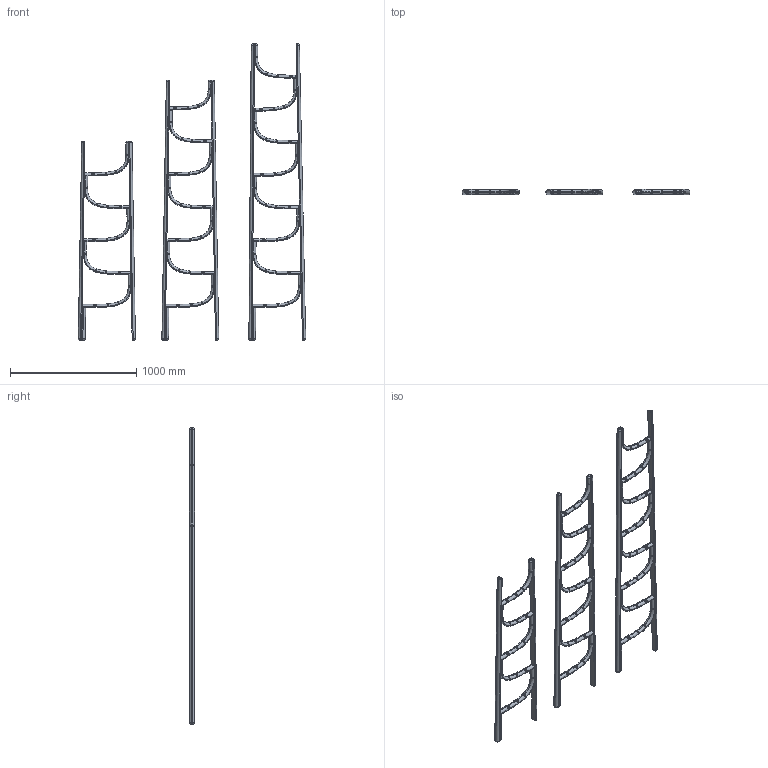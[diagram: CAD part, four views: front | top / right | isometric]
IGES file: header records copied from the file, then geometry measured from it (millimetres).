
Start section: START RECORD GO HERE.
Global section: file name: \\192.168.4.99\ufficio_tecnico\02 - PRODOTTI IN PRODUZIONE\LADDER\03 - DISEGNI 3D\MODELLI 3D PER SITO INTERNET\LADDER.igs; native system: Rhinoceros ( May 22 2017 ); preprocessor: Trout Lake IGES 012 May 22 2017; date: 190521.083843; units: millimetre
Bounding box: 1798.53 x 40 x 2343.82 mm (x, y, z)
Surface area: 2735626.9 mm2 (no closed solid volume)
Topology: 0 solids, 0 shells, 1502 faces, 8431 edges, 8430 vertices
Faces by surface type: bspline 1502
